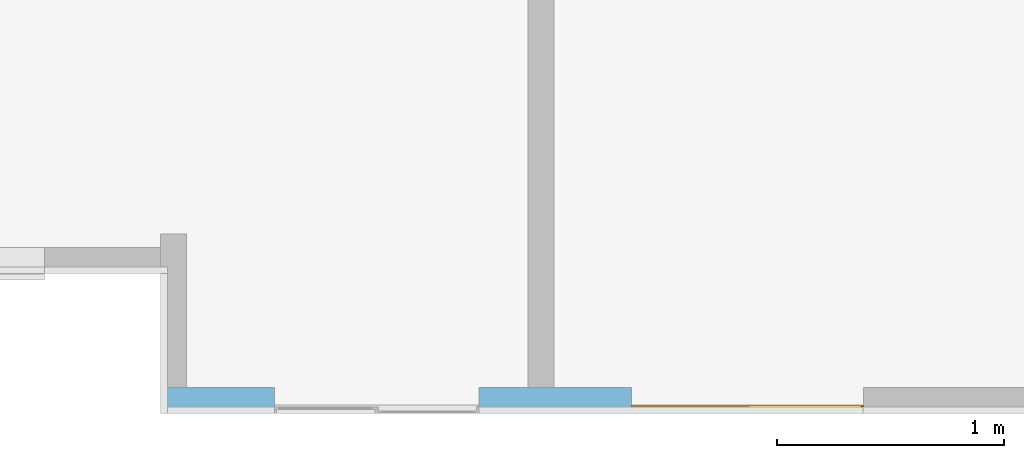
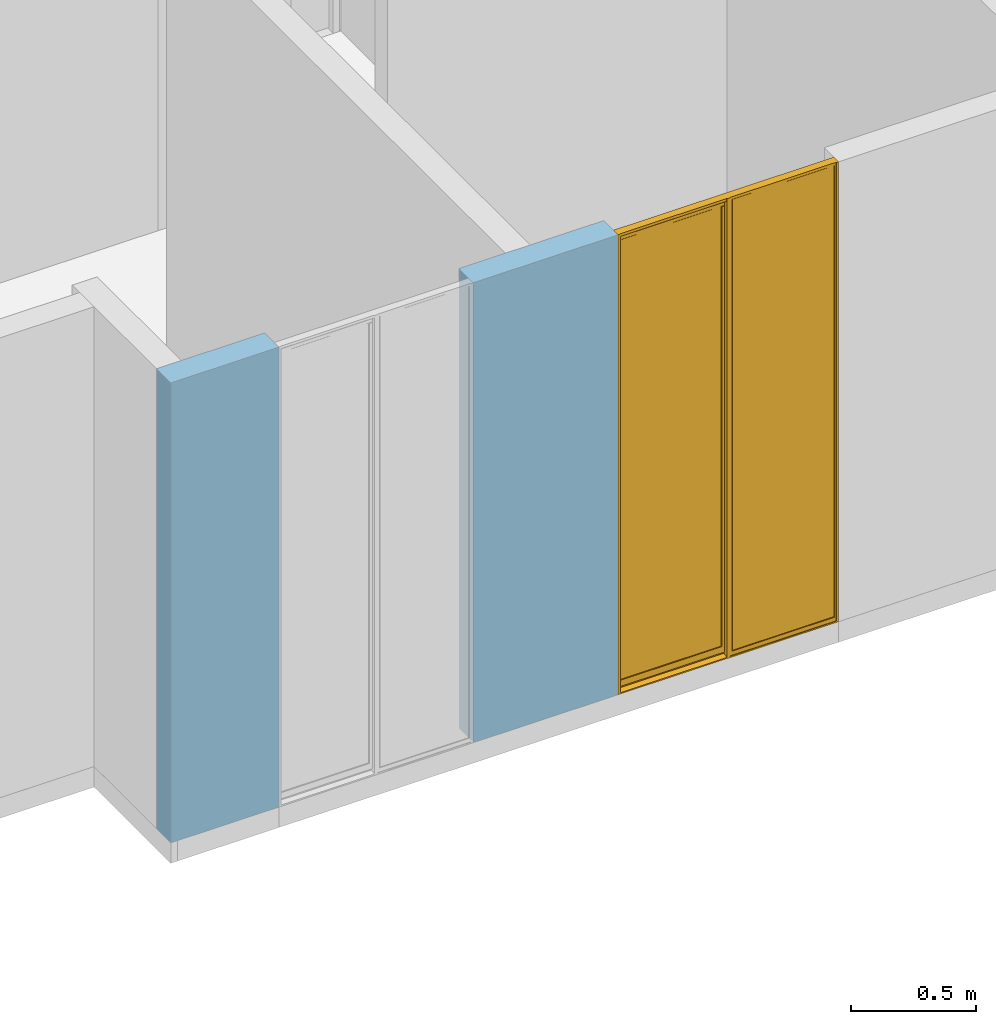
# One storey, part 12 of 48: 1 window, 2 openings, plus 1 element that does not belong to this part.
"""IFC4 building model written with IfcOpenShell, lengths in metres."""

from ifc_helpers import new_model, entity, si_unit, converted_unit, derived_unit, direction, frame, origin, place, context, subcontext, project, spatial, indexed_curve, outline, extrude, polygons, source, transform, mapped, material, constituent, constituent_set, type_object, type_shapes, element, fill, save


model = new_model("IFC4")

# Units and contexts
model_context = context("Model", 3, precision=1e-05, world=origin(), true_north=direction((6.123031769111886e-17, 1.0)))
body_context = subcontext(model_context, "Body", "Model", "MODEL_VIEW")
ifc_project = project(units=[si_unit("LENGTHUNIT", "METRE"), si_unit("AREAUNIT", "SQUARE_METRE"), si_unit("VOLUMEUNIT", "CUBIC_METRE"), converted_unit("PLANEANGLEUNIT", "DEGREE", entity("IfcRatioMeasure", 0.017453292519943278), si_unit("PLANEANGLEUNIT", "RADIAN"), dimensions=[0, 0, 0, 0, 0, 0, 0]), si_unit("MASSUNIT", "GRAM", prefix="KILO"), derived_unit("MASSDENSITYUNIT", [(si_unit("MASSUNIT", "GRAM", prefix="KILO"), 1), (si_unit("LENGTHUNIT", "METRE"), -3)]), derived_unit("IONCONCENTRATIONUNIT", [(si_unit("MASSUNIT", "GRAM", prefix="KILO"), 1), (si_unit("LENGTHUNIT", "METRE"), -3)]), derived_unit("MOMENTOFINERTIAUNIT", [(si_unit("LENGTHUNIT", "METRE"), 4)]), si_unit("TIMEUNIT", "SECOND"), si_unit("FREQUENCYUNIT", "HERTZ"), si_unit("THERMODYNAMICTEMPERATUREUNIT", "DEGREE_CELSIUS"), derived_unit("THERMALTRANSMITTANCEUNIT", [(si_unit("MASSUNIT", "GRAM", prefix="KILO"), 1), (si_unit("THERMODYNAMICTEMPERATUREUNIT", "KELVIN"), -1), (si_unit("TIMEUNIT", "SECOND"), -3)]), derived_unit("THERMALCONDUCTANCEUNIT", [(si_unit("MASSUNIT", "GRAM", prefix="KILO"), 1), (si_unit("THERMODYNAMICTEMPERATUREUNIT", "KELVIN"), -1), (si_unit("TIMEUNIT", "SECOND"), -3), (si_unit("LENGTHUNIT", "METRE"), 1)]), derived_unit("VOLUMETRICFLOWRATEUNIT", [(si_unit("LENGTHUNIT", "METRE"), 3), (si_unit("TIMEUNIT", "SECOND"), -1)]), derived_unit("MASSFLOWRATEUNIT", [(si_unit("MASSUNIT", "GRAM", prefix="KILO"), 1), (si_unit("TIMEUNIT", "SECOND"), -1)]), derived_unit("ROTATIONALFREQUENCYUNIT", [(si_unit("TIMEUNIT", "SECOND"), -1)]), si_unit("ELECTRICCURRENTUNIT", "AMPERE"), si_unit("ELECTRICVOLTAGEUNIT", "VOLT"), si_unit("POWERUNIT", "WATT"), si_unit("FORCEUNIT", "NEWTON", prefix="KILO"), si_unit("ILLUMINANCEUNIT", "LUX"), si_unit("LUMINOUSFLUXUNIT", "LUMEN"), si_unit("LUMINOUSINTENSITYUNIT", "CANDELA"), derived_unit("USERDEFINED", [(si_unit("MASSUNIT", "GRAM", prefix="KILO"), -1), (si_unit("LENGTHUNIT", "METRE"), -2), (si_unit("TIMEUNIT", "SECOND"), 3), (si_unit("LUMINOUSFLUXUNIT", "LUMEN"), 1)]), derived_unit("USERDEFINED", [(si_unit("MASSUNIT", "GRAM", prefix="KILO"), 1), (si_unit("TIMEUNIT", "SECOND"), -3), (si_unit("LENGTHUNIT", "METRE"), 3), (si_unit("ELECTRICCURRENTUNIT", "AMPERE"), -2)]), derived_unit("SOUNDPOWERUNIT", [(si_unit("MASSUNIT", "GRAM", prefix="KILO"), 1), (si_unit("TIMEUNIT", "SECOND"), -3), (si_unit("LENGTHUNIT", "METRE"), 2)]), derived_unit("SOUNDPRESSUREUNIT", [(si_unit("MASSUNIT", "GRAM", prefix="KILO"), 1), (si_unit("LENGTHUNIT", "METRE"), -1), (si_unit("TIMEUNIT", "SECOND"), -2)]), derived_unit("LINEARVELOCITYUNIT", [(si_unit("LENGTHUNIT", "METRE"), 1), (si_unit("TIMEUNIT", "SECOND"), -1)]), si_unit("PRESSUREUNIT", "PASCAL"), derived_unit("USERDEFINED", [(si_unit("MASSUNIT", "GRAM", prefix="KILO"), 1), (si_unit("LENGTHUNIT", "METRE"), -2), (si_unit("TIMEUNIT", "SECOND"), -2)]), derived_unit("LINEARFORCEUNIT", [(si_unit("MASSUNIT", "GRAM", prefix="KILO"), 1), (si_unit("TIMEUNIT", "SECOND"), -2)]), derived_unit("PLANARFORCEUNIT", [(si_unit("MASSUNIT", "GRAM", prefix="KILO"), 1), (si_unit("LENGTHUNIT", "METRE"), -1), (si_unit("TIMEUNIT", "SECOND"), -2)]), derived_unit("SPECIFICHEATCAPACITYUNIT", [(si_unit("THERMODYNAMICTEMPERATUREUNIT", "KELVIN"), -1), (si_unit("LENGTHUNIT", "METRE"), 2), (si_unit("TIMEUNIT", "SECOND"), -2)]), derived_unit("HEATINGVALUEUNIT", [(si_unit("LENGTHUNIT", "METRE"), 2), (si_unit("TIMEUNIT", "SECOND"), -2)]), derived_unit("VAPORPERMEABILITYUNIT", [(si_unit("LENGTHUNIT", "METRE"), -1), (si_unit("TIMEUNIT", "SECOND"), 1)]), derived_unit("DYNAMICVISCOSITYUNIT", [(si_unit("MASSUNIT", "GRAM", prefix="KILO"), 1), (si_unit("TIMEUNIT", "SECOND"), -1), (si_unit("LENGTHUNIT", "METRE"), -1)]), derived_unit("THERMALEXPANSIONCOEFFICIENTUNIT", [(si_unit("THERMODYNAMICTEMPERATUREUNIT", "KELVIN"), -1)]), derived_unit("MODULUSOFELASTICITYUNIT", [(si_unit("MASSUNIT", "GRAM", prefix="KILO"), 1), (si_unit("LENGTHUNIT", "METRE"), -1), (si_unit("TIMEUNIT", "SECOND"), -2)]), derived_unit("ISOTHERMALMOISTURECAPACITYUNIT", [(si_unit("LENGTHUNIT", "METRE"), 3), (si_unit("MASSUNIT", "GRAM", prefix="KILO"), -1)]), derived_unit("MOISTUREDIFFUSIVITYUNIT", [(si_unit("TIMEUNIT", "SECOND"), -1), (si_unit("LENGTHUNIT", "METRE"), 2)])], contexts=[model_context])

# Site, building, storey
site_placement = place(None, origin())
site = spatial("IfcSite", under=ifc_project, at=site_placement, Name="Default", CompositionType="ELEMENT")
building_placement = place(site_placement, origin())
building = spatial("IfcBuilding", under=site, at=building_placement, CompositionType="ELEMENT")
storey_placement = place(building_placement, frame((0.0, 0.0, 9.40000000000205)))
storey = spatial("IfcBuildingStorey", under=building, at=storey_placement, Name="Nivel 5", CompositionType="ELEMENT", Elevation=9.40000000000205)

# Wall, openings, window
ifc_material_1 = material(Name="Ladrillo claro (Aire)", Category="Materials")
wall_type = type_object("IfcWallType", Name="Basic Wall:B2010 - 0.115m - Muro exterior en mampostería - Ladrillo", PredefinedType="STANDARD")
wall_placement = place(storey_placement, frame((12.462500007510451, -12.812500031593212, 0.0)))
wall = element("IfcWall", 1, at=wall_placement, inside=storey, type_object=wall_type, material=ifc_material_1, Name="Basic Wall:B2010 - 0.115m - Muro exterior en mampostería - Ladrillo", ObjectType="Basic Wall:B2010 - 0.115m - Muro exterior en mampostería - Ladrillo", PredefinedType="NOTDEFINED", context=body_context, shape_type="Tessellation", body=[
    polygons([(1.371029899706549e-16, -0.057499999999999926, 2.250000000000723), (1.371029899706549e-16, -0.057499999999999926, -1.0828671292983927e-15), (0.500000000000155, -0.057499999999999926, -1.0828671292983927e-15), (0.500000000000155, -0.057499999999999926, 2.250000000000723), (7.744918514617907e-16, 0.057499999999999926, -1.0828671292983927e-15), (0.11500000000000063, 0.057499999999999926, -1.0828671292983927e-15), (0.5000000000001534, 0.057499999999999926, -1.0828671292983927e-15), (7.744918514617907e-16, 0.057499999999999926, 2.250000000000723), (0.5000000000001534, 0.057499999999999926, 2.250000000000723), (0.11500000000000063, 0.057499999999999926, 2.250000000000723)], [[[1, 2, 3, 4]], [[2, 5, 6, 7, 3]], [[2, 1, 8, 5]], [[4, 3, 7, 9]], [[8, 1, 4, 9, 10]], [[5, 8, 10, 9, 7, 6]]], closed=True),
    polygons([(1.4000000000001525, 0.05750000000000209, -1.0828671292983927e-15), (1.4000000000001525, 0.05750000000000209, 2.250000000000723), (1.6149999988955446, 0.057499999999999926, 2.250000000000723), (1.7299999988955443, 0.05750000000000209, 2.250000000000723), (2.070799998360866, 0.05750000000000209, 2.250000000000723), (2.070799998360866, 0.05750000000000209, -1.0828671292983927e-15), (1.7299999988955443, 0.05750000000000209, -1.0828671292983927e-15), (1.6149999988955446, 0.057499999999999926, -1.0828671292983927e-15), (1.400000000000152, -0.057499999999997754, 2.250000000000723), (2.070799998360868, -0.057499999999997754, 2.250000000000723), (2.070799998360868, -0.057499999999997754, -1.0828671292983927e-15), (1.400000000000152, -0.057499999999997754, -1.0828671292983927e-15)], [[[1, 2, 3, 4, 5, 6, 7, 8]], [[2, 9, 10, 5, 4, 3]], [[10, 11, 6, 5]], [[12, 9, 2, 1]], [[12, 1, 8, 7, 6, 11]], [[9, 12, 11, 10]]], closed=True),
])
opening_1_placement = place(wall_placement, frame((0.5000000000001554, -0.057499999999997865, 0.0)))
element("IfcOpeningElement", 2, at=opening_1_placement, cuts=wall, Name="B2020 - Ventana corrediza 2C - Aluminio + Vidrio:B2020 - 0.90m x 2.25m - Ventana corrediza 2C - Aluminio + Vidrio:1", PredefinedType="OPENING", context=body_context, shape_type="SweptSolid", body=[
    extrude(outline(indexed_curve([(0.0, 0.899999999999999), (0.0, 3.610460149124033e-30), (2.2499999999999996, 3.610460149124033e-30), (2.249999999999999, 0.899999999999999), (0.0, 0.899999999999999)], self_intersect=False)), frame((0.0, 0.0, 0.0), z_axis=(0.0, 1.0, 0.0), x_axis=(0.0, 0.0, 1.0)), (0.0, 0.0, 1.0), 0.115),
])
opening_2_placement = place(wall_placement, frame((2.0707999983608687, -0.05749999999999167, 0.0)))
opening_2 = element("IfcOpeningElement", 3, at=opening_2_placement, cuts=wall, Name="B2020 - Ventana corrediza 2C - Aluminio + Vidrio:B2020 - 1.02m x 2.25m - Ventana corrediza 2C - Aluminio + Vidrio:1", PredefinedType="OPENING", context=body_context, shape_type="SweptSolid", body=[
    extrude(outline(indexed_curve([(0.0, 1.0199999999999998), (0.0, 7.3146984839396e-30), (2.2499999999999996, 7.3146984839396e-30), (2.249999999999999, 1.0199999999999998), (0.0, 1.0199999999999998)], self_intersect=False)), frame((0.0, 0.0, 0.0), z_axis=(0.0, 1.0, 0.0), x_axis=(0.0, 0.0, 1.0)), (0.0, 0.0, 1.0), 0.115),
])
ifc_material_2 = material(Name="Vidrio", Category="Materials")
ifc_constituent_1 = constituent(ifc_material_2, Name="Vidrio", Category="Materials")
ifc_material_3 = material(Name="<Unnamed>")
ifc_constituent_2 = constituent(ifc_material_3, Name="<Unnamed>")
ifc_constituent_set_1 = constituent_set(constituents=[ifc_constituent_1, ifc_constituent_2])
ifc_constituent_3 = constituent(ifc_material_2, Name="Vidrio", Category="Materials")
ifc_constituent_4 = constituent(ifc_material_3, Name="<Unnamed>")
ifc_constituent_set_2 = constituent_set(constituents=[ifc_constituent_3, ifc_constituent_4])
window_type = type_object("IfcWindowType", Name="B2020 - Ventana corrediza 2C - Aluminio + Vidrio:B2020 - 1.02m x 2.25m - Ventana corrediza 2C - Aluminio + Vidrio", PartitioningType="NOTDEFINED", PredefinedType="WINDOW", material=ifc_constituent_set_2)
shared_shape = source(origin(), body_context, "Body", "Tessellation", [
    polygons([(0.48981286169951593, 0.11062877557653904, 0.028641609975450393), (0.48981286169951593, 0.10552744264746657, 0.028641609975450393), (0.01996764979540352, 0.10552744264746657, 0.028641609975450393), (0.019967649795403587, 0.11062877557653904, 0.028641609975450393), (0.48981286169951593, 0.11062877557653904, 2.2347073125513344), (0.48981286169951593, 0.10552744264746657, 2.2347073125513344), (0.01996764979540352, 0.10552744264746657, 2.2347073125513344), (0.019967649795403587, 0.11062877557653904, 2.2347073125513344)], [[[1, 2, 3, 4]], [[5, 6, 2, 1]], [[6, 7, 3, 2]], [[7, 8, 4, 3]], [[8, 5, 1, 4]], [[5, 8, 7, 6]]], closed=True),
    polygons([(1.0011536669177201, 0.0938089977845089, 0.054189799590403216), (1.0011536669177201, 0.08951300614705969, 0.054189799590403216), (0.5317289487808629, 0.08951300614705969, 0.054189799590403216), (0.5317289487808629, 0.0938089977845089, 0.054189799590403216), (1.0011536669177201, 0.0938089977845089, 2.2043993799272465), (1.0011536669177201, 0.08951300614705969, 2.2043993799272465), (0.5317289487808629, 0.08951300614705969, 2.2043993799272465), (0.5317289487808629, 0.0938089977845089, 2.2043993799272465)], [[[1, 2, 3, 4]], [[5, 6, 2, 1]], [[6, 7, 3, 2]], [[7, 8, 4, 3]], [[8, 5, 1, 4]], [[5, 8, 7, 6]]], closed=True),
    polygons([(1.0200000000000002, 0.07999999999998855, 0.020380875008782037), (1.0200000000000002, 0.07999999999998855, -2.5718094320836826e-15), (1.0200000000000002, 0.1149999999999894, -2.5718094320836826e-15), (1.0200000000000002, 0.1150000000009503, 2.2499999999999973), (1.0200000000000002, 0.07720993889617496, 2.2499999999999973), (1.0200000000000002, 0.07720993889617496, 2.2365872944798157), (1.0200000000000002, 0.07857307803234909, 2.2365872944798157), (1.0200000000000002, 0.07857307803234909, 2.24863686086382), (1.0200000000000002, 0.08683610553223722, 2.24863686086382), (1.0200000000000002, 0.0868361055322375, 0.017447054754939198), (1.0200000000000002, 0.08124999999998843, 0.017447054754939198), (1.0200000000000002, 0.08124999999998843, 0.02163087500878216), (1.0200000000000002, 0.07857761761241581, 0.02163087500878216), (1.0200000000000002, 0.07857761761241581, 0.025674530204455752), (1.0200000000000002, 0.07732761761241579, 0.025674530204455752), (1.0200000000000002, 0.07732761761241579, 0.020380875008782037), (2.0303758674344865e-16, 0.0799999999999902, 0.020380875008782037), (2.0303758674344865e-16, 0.0799999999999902, -2.5718094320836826e-15), (2.0303758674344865e-16, 0.11499999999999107, -2.5718094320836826e-15), (0.5033545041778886, 0.1149999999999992, 2.2499999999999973), (0.5166454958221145, 0.1149999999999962, 2.2499999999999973), (0.5166454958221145, 0.11499999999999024, 0.006176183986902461), (1.010102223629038, 0.11499999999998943, 0.006176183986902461), (1.010102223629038, 0.1150000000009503, 2.2499999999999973), (2.707167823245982e-16, 0.1150000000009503, 2.2499999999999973), (0.009999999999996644, 0.11500000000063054, 2.2499999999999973), (0.009999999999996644, 0.11499999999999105, 0.006176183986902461), (0.5033545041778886, 0.11499999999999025, 0.006176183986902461), (1.003701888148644, 0.08683610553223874, 2.2069861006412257), (1.0037018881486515, 0.0868361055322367, 0.0519155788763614), (0.5291807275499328, 0.08683610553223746, 0.0519155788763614), (0.5291807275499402, 0.08683610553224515, 2.2043993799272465), (0.5166454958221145, 0.08683610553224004, 2.2043993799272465), (0.5166454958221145, 0.08683610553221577, 2.2069861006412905), (1.0037018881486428, 0.08683610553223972, 2.237270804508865), (0.5166454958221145, 0.0868361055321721, 2.237270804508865), (0.5166454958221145, 0.08683610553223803, 2.24863686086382), (0.5019528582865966, 0.08683610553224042, 2.24863686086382), (0.5019528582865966, 0.08683610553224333, 0.01744705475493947), (0.5166454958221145, 0.08683610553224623, 0.017447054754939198), (0.5166454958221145, 0.08683610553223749, 0.021630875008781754), (1.0162371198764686, 0.08683610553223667, 0.02163087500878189), (1.0162371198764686, 0.08683610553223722, 0.01744705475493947), (1.0037018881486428, 0.08683610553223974, 2.24863686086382), (2.0303758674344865e-16, 0.0812499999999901, 0.017447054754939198), (1.0162371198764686, 0.09036136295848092, 0.017447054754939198), (0.5166454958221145, 0.09036136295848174, 0.017447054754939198), (0.5019528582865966, 0.09036136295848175, 0.017447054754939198), (0.009999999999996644, 0.09036136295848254, 0.017447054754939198), (0.009999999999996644, 0.08300000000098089, 0.017447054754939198), (2.0303758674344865e-16, 0.08300000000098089, 0.017447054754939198), (2.0303758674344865e-16, 0.0812499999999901, 0.02163087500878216), (2.0303758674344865e-16, 0.07857761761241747, 0.02163087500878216), (2.0303758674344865e-16, 0.07857761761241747, 0.025674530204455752), (2.0303758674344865e-16, 0.07732761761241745, 0.025674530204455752), (2.0303758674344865e-16, 0.07732761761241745, 0.020380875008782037), (1.0011570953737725, 0.09380711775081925, 0.054191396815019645), (1.0037018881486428, 0.09648589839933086, 0.051915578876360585), (0.529180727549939, 0.09648589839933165, 0.051915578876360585), (0.5317227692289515, 0.09380452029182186, 0.054191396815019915), (1.0037018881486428, 0.09648589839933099, 2.237270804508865), (1.0011536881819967, 0.09378706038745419, 2.237270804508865), (1.0011536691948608, 0.09378696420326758, 2.24863686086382), (1.0037018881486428, 0.09648589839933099, 2.24863686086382), (1.0037018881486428, 0.09648589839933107, 2.206986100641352), (0.5166454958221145, 0.09648589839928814, 2.2069861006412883), (0.5166454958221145, 0.09648589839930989, 2.237270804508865), (1.010102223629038, 0.09648589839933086, 2.24863686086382), (1.010102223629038, 0.09648589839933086, 0.021630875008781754), (0.5166454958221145, 0.09648589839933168, 0.02163087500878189), (0.5166454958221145, 0.09648589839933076, 2.2043993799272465), (0.5291807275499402, 0.09648589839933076, 2.2043993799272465), (0.5317289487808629, 0.09379979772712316, 2.2043993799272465), (1.0011598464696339, 0.08951748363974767, 0.05419139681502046), (0.5317255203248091, 0.08951488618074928, 0.05419139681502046), (1.0011537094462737, 0.08953496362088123, 2.237270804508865), (1.0011536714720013, 0.08953504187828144, 2.24863686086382), (0.5317289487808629, 0.08952211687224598, 2.2043992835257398), (0.5019528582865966, 0.10334183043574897, 2.24863686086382), (0.5019528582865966, 0.10334183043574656, 0.014402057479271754), (0.5019528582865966, 0.09363692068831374, 0.014402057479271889), (0.5019528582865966, 0.0936369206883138, 0.010600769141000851), (0.5019528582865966, 0.09036136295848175, 0.011279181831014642), (0.5166454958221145, 0.11281438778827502, 2.2499999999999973), (0.5166454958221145, 0.11281438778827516, 2.2369062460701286), (0.5166454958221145, 0.11061545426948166, 2.2347073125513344), (0.5166454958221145, 0.10554076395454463, 2.2347073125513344), (0.5166454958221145, 0.10334183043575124, 2.2369062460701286), (0.5166454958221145, 0.10334183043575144, 2.24863686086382), (0.5166454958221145, 0.09380890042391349, 2.204399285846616), (0.5166454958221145, 0.09036136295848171, 0.011279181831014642), (1.0162371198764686, 0.09648589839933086, 0.021630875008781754), (1.0162371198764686, 0.09648589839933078, 0.010010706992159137), (1.0162371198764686, 0.0903613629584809, 0.011279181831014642), (1.010102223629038, 0.09648589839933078, 0.010010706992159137), (1.010102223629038, 0.10334183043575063, 2.24863686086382), (1.010102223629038, 0.10334183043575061, 2.2369062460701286), (1.010102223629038, 0.1055407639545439, 2.2347073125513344), (1.010102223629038, 0.11061545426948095, 2.2347073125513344), (1.010102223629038, 0.11281438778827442, 2.2369062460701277), (1.010102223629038, 0.11281438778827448, 2.2499999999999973), (2.0303758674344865e-16, 0.08300000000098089, 2.24863686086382), (2.0303758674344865e-16, 0.07857307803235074, 2.24863686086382), (2.0303758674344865e-16, 0.07857307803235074, 2.2365872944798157), (2.0303758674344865e-16, 0.07720993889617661, 2.2365872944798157), (2.0303758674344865e-16, 0.07720993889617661, 2.2499999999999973), (0.009999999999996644, 0.08300000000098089, 2.24863686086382), (0.009999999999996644, 0.09036136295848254, 0.011279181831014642), (0.009999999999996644, 0.09363692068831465, 0.010600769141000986), (0.009999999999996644, 0.09363692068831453, 0.014402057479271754), (0.009999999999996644, 0.10334183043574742, 0.014402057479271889), (0.009999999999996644, 0.10334183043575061, 2.24863686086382), (0.5033545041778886, 0.11281438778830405, 0.006628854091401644), (0.5033545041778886, 0.112814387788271, 2.2499999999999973), (0.009999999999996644, 0.11281438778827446, 2.2499999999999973), (0.009999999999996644, 0.11281438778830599, 0.0066288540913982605), (0.4923610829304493, 0.11281438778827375, 0.02682441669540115), (0.48981286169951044, 0.11062877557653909, 0.028641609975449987), (0.4898128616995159, 0.1106287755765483, 2.2347139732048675), (0.4923610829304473, 0.11281438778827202, 2.236906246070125), (0.019967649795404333, 0.11062877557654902, 0.028641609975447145), (0.017419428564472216, 0.11281438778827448, 0.02682441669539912), (0.017419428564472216, 0.1128143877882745, 2.236906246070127), (0.019967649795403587, 0.11062877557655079, 2.2347139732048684), (0.019967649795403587, 0.10552744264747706, 0.028641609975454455), (0.01741942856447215, 0.1033418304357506, 0.026824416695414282), (0.4923610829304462, 0.10334183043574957, 0.02682441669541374), (0.48981286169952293, 0.10552744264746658, 0.028641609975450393), (0.019968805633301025, 0.10553009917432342, 2.234711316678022), (0.01741942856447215, 0.10334183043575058, 2.23690624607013), (0.49236108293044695, 0.10334183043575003, 2.2369062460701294), (0.4898117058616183, 0.1055300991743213, 2.234711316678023), (1.0011537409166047, 0.09378737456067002, 2.2043889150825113), (1.0011555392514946, 0.0895303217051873, 2.2043931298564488), (0.5166454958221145, 0.08951315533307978, 2.2043993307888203)], [[[1, 2, 3, 4, 5, 6, 7, 8, 9, 10, 11, 12, 13, 14, 15, 16]], [[17, 18, 2, 1]], [[2, 18, 19, 3]], [[20, 21, 22, 23, 24, 4, 3, 19, 25, 26, 27, 28]], [[35, 36, 37, 38, 39, 40, 41, 42, 43, 10, 9, 44], [29, 30, 31, 32, 33, 34]], [[45, 11, 10, 43, 46, 47, 40, 39, 48, 49, 50, 51]], [[45, 52, 12, 11]], [[52, 53, 13, 12]], [[53, 54, 14, 13]], [[54, 55, 15, 14]], [[55, 56, 16, 15]], [[56, 17, 1, 16]], [[57, 58, 59, 60]], [[61, 62, 63, 64]], [[58, 65, 66, 67, 61, 64, 68, 69, 70, 71, 72, 59]], [[72, 73, 60, 59]], [[74, 57, 60, 75]], [[62, 76, 77, 63]], [[60, 73, 78, 75]], [[30, 74, 75, 31]], [[76, 35, 44, 77]], [[78, 32, 31, 75]], [[48, 39, 38, 79, 80, 81, 82, 83]], [[22, 21, 84, 85, 86, 87, 88, 89, 37, 36, 67, 66, 90, 71, 70, 41, 40, 47, 91]], [[41, 70, 69, 92, 42]], [[92, 93, 94, 46, 43, 42]], [[69, 95, 93, 92]], [[24, 23, 95, 69, 68, 96, 97, 98, 99, 100, 101]], [[17, 56, 55, 54, 53, 52, 45, 51, 102, 103, 104, 105, 106, 25, 19, 18]], [[51, 50, 107, 102]], [[48, 83, 108, 49]], [[50, 49, 108, 109, 110, 111, 112, 107]], [[83, 82, 109, 108]], [[113, 114, 20, 28]], [[26, 115, 116, 27]], [[84, 101, 100, 85]], [[82, 81, 110, 109]], [[117, 118, 119, 120]], [[121, 122, 123, 124]], [[122, 121, 118, 117]], [[125, 126, 127, 128]], [[88, 97, 96, 89]], [[126, 125, 129, 130]], [[128, 127, 131, 132]], [[81, 80, 111, 110]], [[125, 121, 124, 129]], [[121, 125, 128, 118]], [[118, 128, 132, 119]], [[5, 4, 24, 101, 84, 21, 20, 114, 115, 26, 25, 106]], [[65, 133, 73, 90, 66]], [[133, 134, 78, 73]], [[134, 29, 34, 135, 78]], [[76, 62, 61, 67, 36, 35]], [[33, 32, 78, 135]], [[104, 103, 8, 7]], [[105, 104, 7, 6]], [[106, 105, 6, 5]], [[123, 120, 119, 124]], [[132, 129, 124, 119]], [[131, 130, 129, 132]], [[8, 103, 102, 107, 112, 79, 38, 37, 89, 96, 68, 64, 63, 77, 44, 9]], [[87, 98, 97, 88]], [[86, 99, 98, 87]], [[85, 100, 99, 86]], [[73, 72, 71, 90]], [[111, 80, 79, 112], [127, 126, 130, 131]], [[115, 114, 113, 116], [117, 120, 123, 122]], [[113, 28, 27, 116]], [[22, 91, 94, 93, 95, 23]], [[91, 47, 46, 94]], [[135, 34, 33]], [[74, 30, 29, 134]], [[57, 74, 134, 133]], [[58, 57, 133, 65]]], closed=True),
])
type_shapes(window_type, [shared_shape])
window_placement = place(opening_2_placement, frame((1.0199999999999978, 0.1150000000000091, 0.0), z_axis=(0.0, 0.0, 1.0), x_axis=(-1.0, 0.0, 0.0)))
window = element("IfcWindow", 4, at=window_placement, inside=storey, type_object=window_type, material=ifc_constituent_set_1, Name="B2020 - Ventana corrediza 2C - Aluminio + Vidrio:B2020 - 1.02m x 2.25m - Ventana corrediza 2C - Aluminio + Vidrio", ObjectType="B2020 - Ventana corrediza 2C - Aluminio + Vidrio:B2020 - 1.02m x 2.25m - Ventana corrediza 2C - Aluminio + Vidrio", OverallHeight=2.2499999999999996, OverallWidth=1.0199999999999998, PartitioningType="NOTDEFINED", PredefinedType="WINDOW", context=body_context, shape_type="MappedRepresentation", body=[
    mapped(shared_shape, transform((0.0, 0.0, 0.0), scale=1.0)),
])
fill(opening_2, window)

save(model, "model.ifc")
